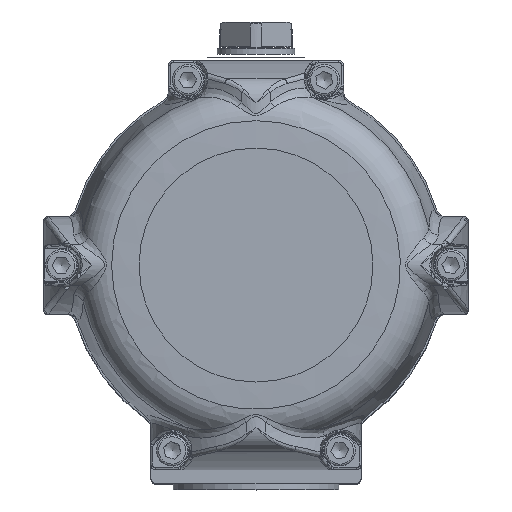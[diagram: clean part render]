
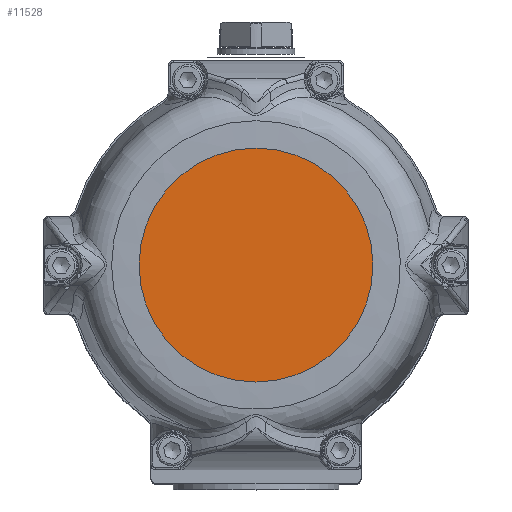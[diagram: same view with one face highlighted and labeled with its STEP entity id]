
A CAD part, top view. The second image highlights one B-rep face of the part: STEP entity #11528.
In plain terms, the highlighted planar face has unit normal (0, 0, 1).
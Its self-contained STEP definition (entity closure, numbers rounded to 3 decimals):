
#2077=PLANE('',#12621);
#2894=FACE_OUTER_BOUND('',#3552,.T.);
#3552=EDGE_LOOP('',(#10039,#10040));
#4253=CIRCLE('',#12622,60.);
#4254=CIRCLE('',#12623,60.);
#5462=VERTEX_POINT('',#26579);
#5463=VERTEX_POINT('',#26580);
#7252=EDGE_CURVE('',#5462,#5463,#4253,.T.);
#7253=EDGE_CURVE('',#5463,#5462,#4254,.T.);
#10039=ORIENTED_EDGE('',*,*,#7252,.T.);
#10040=ORIENTED_EDGE('',*,*,#7253,.T.);
#11528=ADVANCED_FACE('',(#2894),#2077,.F.);
#12621=AXIS2_PLACEMENT_3D('',#26578,#15123,#15124);
#12622=AXIS2_PLACEMENT_3D('',#26581,#15125,#15126);
#12623=AXIS2_PLACEMENT_3D('',#26582,#15127,#15128);
#15123=DIRECTION('center_axis',(0.,0.,
-1.));
#15124=DIRECTION('ref_axis',(0.,1.,0.));
#15125=DIRECTION('center_axis',(0.,0.,
1.));
#15126=DIRECTION('ref_axis',(-1.,0.,0.));
#15127=DIRECTION('center_axis',(0.,0.,
1.));
#15128=DIRECTION('ref_axis',(-1.,0.,0.));
#26578=CARTESIAN_POINT('Origin',(-30.,0.,
191.));
#26579=CARTESIAN_POINT('',(-60.,0.,191.));
#26580=CARTESIAN_POINT('',(0.,60.,191.));
#26581=CARTESIAN_POINT('Origin',(0.,0.,
191.));
#26582=CARTESIAN_POINT('Origin',(0.,0.,
191.));
